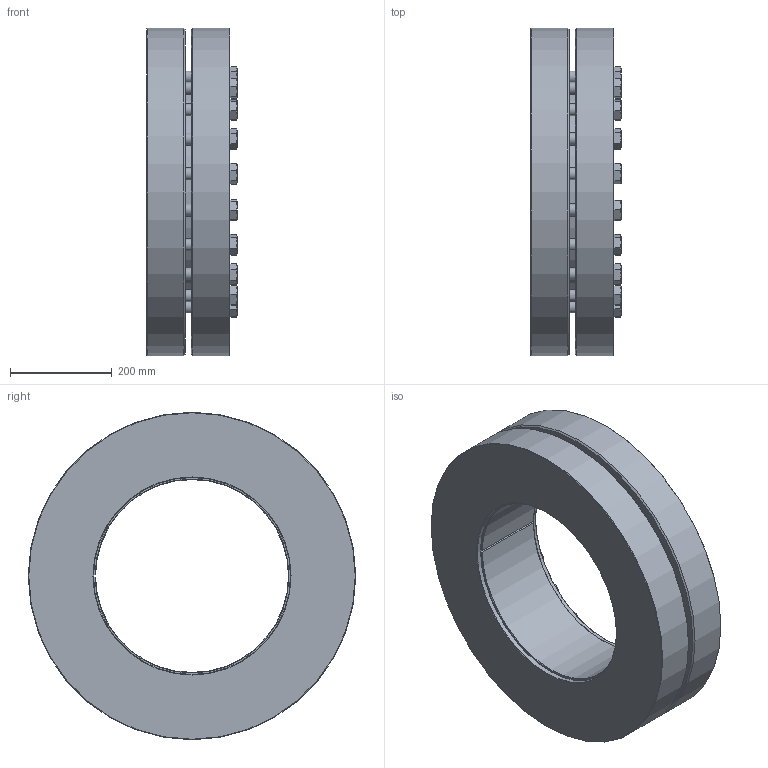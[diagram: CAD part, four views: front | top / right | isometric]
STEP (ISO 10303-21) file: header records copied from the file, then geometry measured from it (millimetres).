
FILE_DESCRIPTION( ( 'Unknown' ), '1' );
FILE_NAME( 'C:/Dokumente und Einstellungen/Sven/Desktop/KBS19 GF/KBS - 380 x 645.stp', 'Unknown', ( 'Unknown' ), ( 'Unknown' ), 'XStep 1.0', 'Unknown', ' ' );
FILE_SCHEMA( ( 'automotive_design' ) );
Length unit declared in the file: millimetre
Products named in the file (2): Assem1; ENG-001330
Bounding box: 179 x 645 x 645 mm (x, y, z)
Volume: 66015474 mm3; surface area: 2727256.3 mm2
Topology: 2 solids, 2 shells, 482 faces, 1252 edges, 860 vertices
Faces by surface type: plane 336, cylinder 90, cone 48, torus 8
Full cylindrical faces by diameter (mm): 24 x40, 33.61 x40, 388 x2, 414.8 x2, 645 x4
Entity records: 13049 total; most frequent: CARTESIAN_POINT 2713, ORIENTED_EDGE 984, DIRECTION 974, PRESENTATION_STYLE_ASSIGNMENT 921, COLOUR_RGB 921, STYLED_ITEM 701, CURVE_STYLE 680, DRAUGHTING_PRE_DEFINED_CURVE_FONT 680
